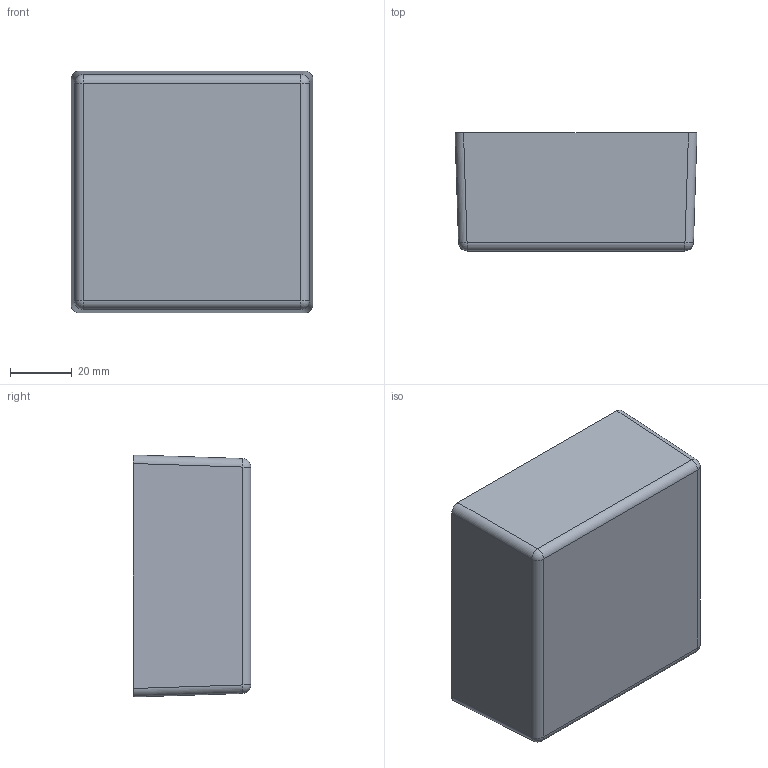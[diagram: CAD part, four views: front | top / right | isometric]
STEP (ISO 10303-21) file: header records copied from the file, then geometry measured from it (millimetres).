
FILE_DESCRIPTION (( 'STEP AP214' ), '1' );
FILE_NAME ('TS-3315PMB ASS''Y.STEP', '2010-07-14T20:37:22', ( '' ), ( '' ), 'SwSTEP 2.0', 'SolidWorks 2010', '' );
FILE_SCHEMA (( 'AUTOMOTIVE_DESIGN' ));
Length unit declared in the file: inch
Products named in the file (5): TS-3315B_TS-3315BP; TS-3315PMB ASS''Y; SCREWS-LP-BR_SCREWS-LP-BR; TS-3300C_TS-3300C-MB; TS-3315PCB_TS-3315A-PCB
Assembly tree (7 placements, depth 2):
  TS-3315PMB ASS''Y
    SCREWS-LP-BR_SCREWS-LP-BR  x4
    TS-3315PCB_TS-3315A-PCB
    TS-3315B_TS-3315BP
    TS-3300C_TS-3300C-MB
Bounding box: 78.61 x 38.23 x 78.61 mm (x, y, z)
Volume: 51703.6 mm3; surface area: 60745.9 mm2
Topology: 7 solids, 7 shells, 445 faces, 1208 edges, 788 vertices
Faces by surface type: cylinder 221, plane 136, cone 56, bspline 20, sphere 12
Entity records: 8679 total; most frequent: CARTESIAN_POINT 2851, ORIENTED_EDGE 1226, DIRECTION 1135, EDGE_CURVE 613, AXIS2_PLACEMENT_3D 421, VERTEX_POINT 398, VECTOR 293, LINE 293
